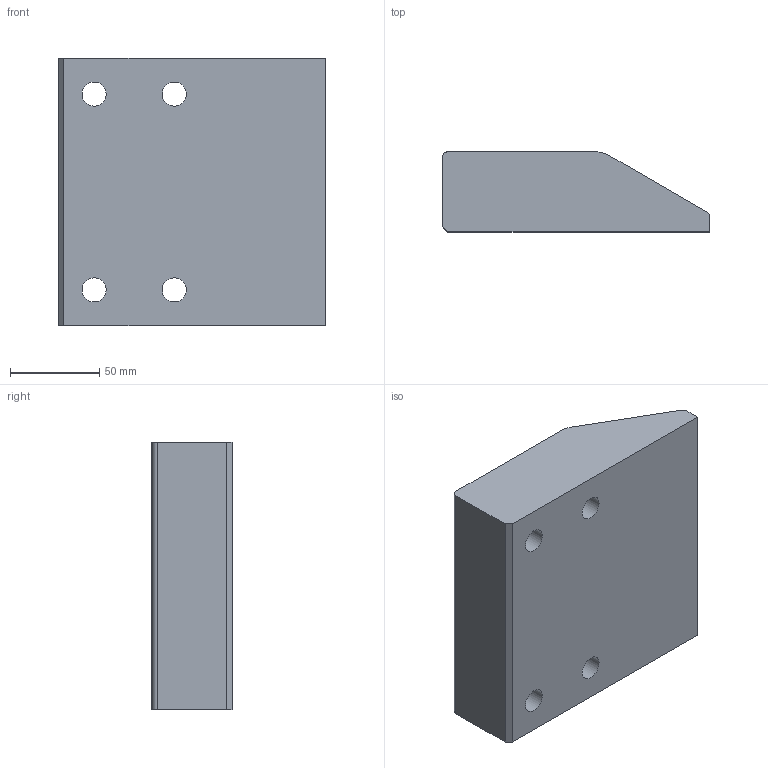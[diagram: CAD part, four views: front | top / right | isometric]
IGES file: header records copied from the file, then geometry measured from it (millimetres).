
Start section: Data from Parasolid IGES Translator 20.0.26, Copyright(c) 2006 Siemens P LM Software. All Rights Reserved.
Global section: file name: G228-01-15015045.igs; native system: By Siemens PLM Incorporated; preprocessor: XPlus GENERIC/IGES 20.0.26; author: Noname; organization: Noname; date: 20190710.094627; units: millimetre
Bounding box: 150 x 45 x 150 mm (x, y, z)
Surface area: 74200.1 mm2 (no closed solid volume)
Topology: 0 solids, 0 shells, 27 faces, 118 edges, 98 vertices
Faces by surface type: revolution 15, extrusion 12
